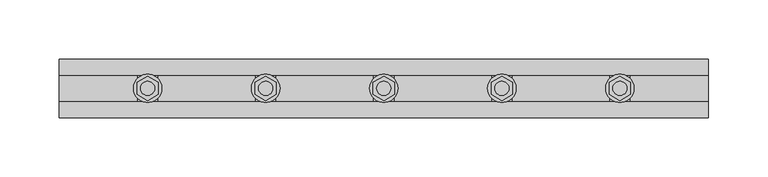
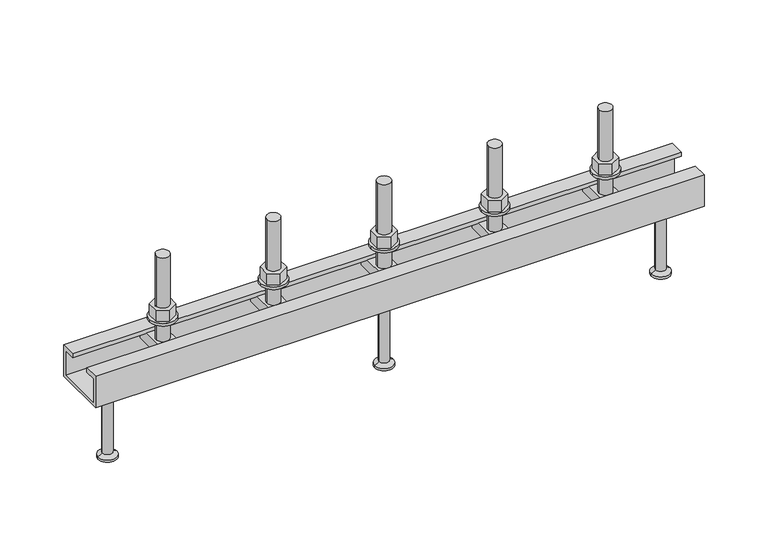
"""IFC4 building model written with IfcOpenShell, lengths in millimetres: fastener geometry, JTA-W JORDAHL® AnchorChannels : JTA-W L=550 mm."""

from ifc_helpers import new_model, si_unit, point, frame, frame_2d, origin, place, context, project, spatial, polyline, circle_curve, trimmed, segment, composite_curve, outline, extrude, source, transform, mapped, element, save
from ifc_brep_helpers import plane_surface, cylinder_surface, revolved_surface, advanced_brep


def fastener_58838e9d(model_context):
    return source(origin(), model_context, "Body", "SolidModel", [
        extrude(outline(polyline([(375.0, -10.3923048), (366.0, -5.1961524), (366.0, 5.1961524), (375.0, 10.3923048), (384.0, 5.1961524), (384.0, -5.1961524), (375.0, -10.3923048)]), holes=[composite_curve([segment(trimmed(circle_curve(frame_2d((375.0, 0.0)), 6.0), [point((369.0, 0.0))], [point((381.0, 0.0))], True, "CARTESIAN"), True, "CONTINUOUS"), segment(trimmed(circle_curve(frame_2d((375.0, 0.0)), 6.0), [point((381.0, 0.0))], [point((369.0, 0.0))], True, "CARTESIAN"), True, "CONTINUOUS")], self_intersect=False)]), frame((0.0, 0.0, 17.5), z_axis=(0.0, 0.0, 1.0), x_axis=(1.0, 0.0, 0.0)), (0.0, 0.0, 1.0), 10.8),
        extrude(outline(composite_curve([segment(trimmed(circle_curve(frame_2d((375.0, 0.0)), 12.0), [point((363.0, 0.0))], [point((387.0, 0.0))], False, "CARTESIAN"), True, "CONTINUOUS"), segment(trimmed(circle_curve(frame_2d((375.0, 0.0)), 12.0), [point((387.0, 0.0))], [point((363.0, 0.0))], False, "CARTESIAN"), True, "CONTINUOUS")], self_intersect=False), holes=[composite_curve([segment(trimmed(circle_curve(frame_2d((375.0, 0.0)), 6.5), [point((368.5, 0.0))], [point((381.5, 0.0))], True, "CARTESIAN"), True, "CONTINUOUS"), segment(trimmed(circle_curve(frame_2d((375.0, 0.0)), 6.5), [point((381.5, 0.0))], [point((368.5, 0.0))], True, "CARTESIAN"), True, "CONTINUOUS")], self_intersect=False)]), frame((0.0, 0.0, 15.0), z_axis=(0.0, 0.0, 1.0), x_axis=(1.0, 0.0, 0.0)), (0.0, 0.0, 1.0), 2.5),
        extrude(outline(polyline([(275.0, -10.3923048), (266.0, -5.1961524), (266.0, 5.1961524), (275.0, 10.3923048), (284.0, 5.1961524), (284.0, -5.1961524), (275.0, -10.3923048)]), holes=[composite_curve([segment(trimmed(circle_curve(frame_2d((275.0, 0.0)), 6.0), [point((269.0, 0.0))], [point((281.0, 0.0))], True, "CARTESIAN"), True, "CONTINUOUS"), segment(trimmed(circle_curve(frame_2d((275.0, 0.0)), 6.0), [point((281.0, 0.0))], [point((269.0, 0.0))], True, "CARTESIAN"), True, "CONTINUOUS")], self_intersect=False)]), frame((0.0, 0.0, 17.5), z_axis=(0.0, 0.0, 1.0), x_axis=(1.0, 0.0, 0.0)), (0.0, 0.0, 1.0), 10.8),
        extrude(outline(composite_curve([segment(trimmed(circle_curve(frame_2d((275.0, 0.0)), 12.0), [point((263.0, 0.0))], [point((287.0, 0.0))], False, "CARTESIAN"), True, "CONTINUOUS"), segment(trimmed(circle_curve(frame_2d((275.0, 0.0)), 12.0), [point((287.0, 0.0))], [point((263.0, 0.0))], False, "CARTESIAN"), True, "CONTINUOUS")], self_intersect=False), holes=[composite_curve([segment(trimmed(circle_curve(frame_2d((275.0, 0.0)), 6.5), [point((268.5, 0.0))], [point((281.5, 0.0))], True, "CARTESIAN"), True, "CONTINUOUS"), segment(trimmed(circle_curve(frame_2d((275.0, 0.0)), 6.5), [point((281.5, 0.0))], [point((268.5, 0.0))], True, "CARTESIAN"), True, "CONTINUOUS")], self_intersect=False)]), frame((0.0, 0.0, 15.0), z_axis=(0.0, 0.0, 1.0), x_axis=(1.0, 0.0, 0.0)), (0.0, 0.0, 1.0), 2.5),
        extrude(outline(polyline([(175.0, -10.3923048), (166.0, -5.1961524), (166.0, 5.1961524), (175.0, 10.3923048), (184.0, 5.1961524), (184.0, -5.1961524), (175.0, -10.3923048)]), holes=[composite_curve([segment(trimmed(circle_curve(frame_2d((175.0, 0.0)), 6.0), [point((169.0, 0.0))], [point((181.0, 0.0))], True, "CARTESIAN"), True, "CONTINUOUS"), segment(trimmed(circle_curve(frame_2d((175.0, 0.0)), 6.0), [point((181.0, 0.0))], [point((169.0, 0.0))], True, "CARTESIAN"), True, "CONTINUOUS")], self_intersect=False)]), frame((0.0, 0.0, 17.5), z_axis=(0.0, 0.0, 1.0), x_axis=(1.0, 0.0, 0.0)), (0.0, 0.0, 1.0), 10.8),
        extrude(outline(composite_curve([segment(trimmed(circle_curve(frame_2d((175.0, 0.0)), 12.0), [point((163.0, 0.0))], [point((187.0, 0.0))], False, "CARTESIAN"), True, "CONTINUOUS"), segment(trimmed(circle_curve(frame_2d((175.0, 0.0)), 12.0), [point((187.0, 0.0))], [point((163.0, 0.0))], False, "CARTESIAN"), True, "CONTINUOUS")], self_intersect=False), holes=[composite_curve([segment(trimmed(circle_curve(frame_2d((175.0, 0.0)), 6.5), [point((168.5, 0.0))], [point((181.5, 0.0))], True, "CARTESIAN"), True, "CONTINUOUS"), segment(trimmed(circle_curve(frame_2d((175.0, 0.0)), 6.5), [point((181.5, 0.0))], [point((168.5, 0.0))], True, "CARTESIAN"), True, "CONTINUOUS")], self_intersect=False)]), frame((0.0, 0.0, 15.0), z_axis=(0.0, 0.0, 1.0), x_axis=(1.0, 0.0, 0.0)), (0.0, 0.0, 1.0), 2.5),
        advanced_brep(
        [(383.5, -20.7, -4.0), (383.5, -20.7, -14.0), (383.5, 20.7, -14.0), (383.5, 20.7, -4.0), (366.5, -20.7, -4.0), (366.5, 20.7, -4.0), (366.5, 20.7, -14.0), (366.5, -20.7, -14.0), (381.0, 0.0, -4.0), (369.0, 0.0, -4.0), (369.0, 0.0, 76.0), (381.0, 0.0, 76.0)],
        [
            (0, 1),
            (1, 2),
            (2, 3),
            (3, 0),
            (4, 5),
            (5, 6),
            (6, 7),
            (7, 4),
            (3, 5),
            (4, 0),
            (8, 9, circle_curve(frame((375.0, 0.0, -4.0), z_axis=(0.0, 0.0, -1.0), x_axis=(1.0, 0.0, 0.0)), 6.0)),
            (9, 8, circle_curve(frame((375.0, 0.0, -4.0), z_axis=(0.0, 0.0, -1.0), x_axis=(1.0, 0.0, 0.0)), 6.0)),
            (2, 6),
            (1, 7),
            (10, 11, circle_curve(frame((375.0, 0.0, 76.0), z_axis=(0.0, 0.0, 1.0), x_axis=(1.0, 0.0, 0.0)), 6.0)),
            (11, 10, circle_curve(frame((375.0, 0.0, 76.0), z_axis=(0.0, 0.0, 1.0), x_axis=(1.0, 0.0, 0.0)), 6.0)),
            (11, 8),
            (9, 10),
        ],
        [
            plane_surface(frame((383.5, 20.7, -4.0), z_axis=(1.0, 0.0, 0.0), x_axis=(0.0, 1.0, 0.0))),
            plane_surface(frame((366.5, 20.7, -4.0), z_axis=(-1.0, 0.0, 0.0), x_axis=(0.0, -1.0, 0.0))),
            plane_surface(frame((383.5, -20.7, -4.0), z_axis=(0.0, 0.0, 1.0), x_axis=(-1.0, 0.0, 0.0))),
            plane_surface(frame((383.5, 20.7, -4.0), z_axis=(0.0, 1.0, 0.0), x_axis=(-1.0, 0.0, 0.0))),
            plane_surface(frame((383.5, 20.7, -14.0), z_axis=(0.0, 0.0, -1.0), x_axis=(-1.0, 0.0, 0.0))),
            plane_surface(frame((383.5, -20.7, -14.0), z_axis=(0.0, -1.0, 0.0), x_axis=(-1.0, 0.0, 0.0))),
            plane_surface(frame((381.0, 0.0, 76.0), z_axis=(0.0, 0.0, 1.0), x_axis=(0.0, -1.0, 0.0))),
            cylinder_surface(frame((375.0, 0.0, -4.0), z_axis=(0.0, 0.0, 1.0), x_axis=(1.0, 0.0, 0.0)), 6.0),
        ],
        [
            (0, [[1, 2, 3, 4]]),
            (1, [[5, 6, 7, 8]]),
            (2, [[9, -5, 10, -4], [11, 12]]),
            (3, [[13, -6, -9, -3]]),
            (4, [[14, -7, -13, -2]]),
            (5, [[-10, -8, -14, -1]]),
            (6, [[15, 16]]),
            (7, [[17, -12, 18, -16]]),
            (7, [[-18, -11, -17, -15]]),
        ],
    ),
        advanced_brep(
        [(283.5, -20.7, -4.0), (283.5, -20.7, -14.0), (283.5, 20.7, -14.0), (283.5, 20.7, -4.0), (266.5, -20.7, -4.0), (266.5, 20.7, -4.0), (266.5, 20.7, -14.0), (266.5, -20.7, -14.0), (281.0, 0.0, -4.0), (269.0, 0.0, -4.0), (269.0, 0.0, 76.0), (281.0, 0.0, 76.0)],
        [
            (0, 1),
            (1, 2),
            (2, 3),
            (3, 0),
            (4, 5),
            (5, 6),
            (6, 7),
            (7, 4),
            (3, 5),
            (4, 0),
            (8, 9, circle_curve(frame((275.0, 0.0, -4.0), z_axis=(0.0, 0.0, -1.0), x_axis=(1.0, 0.0, 0.0)), 6.0)),
            (9, 8, circle_curve(frame((275.0, 0.0, -4.0), z_axis=(0.0, 0.0, -1.0), x_axis=(1.0, 0.0, 0.0)), 6.0)),
            (2, 6),
            (1, 7),
            (10, 11, circle_curve(frame((275.0, 0.0, 76.0), z_axis=(0.0, 0.0, 1.0), x_axis=(1.0, 0.0, 0.0)), 6.0)),
            (11, 10, circle_curve(frame((275.0, 0.0, 76.0), z_axis=(0.0, 0.0, 1.0), x_axis=(1.0, 0.0, 0.0)), 6.0)),
            (11, 8),
            (9, 10),
        ],
        [
            plane_surface(frame((283.5, 20.7, -4.0), z_axis=(1.0, 0.0, 0.0), x_axis=(0.0, 1.0, 0.0))),
            plane_surface(frame((266.5, 20.7, -4.0), z_axis=(-1.0, 0.0, 0.0), x_axis=(0.0, -1.0, 0.0))),
            plane_surface(frame((283.5, -20.7, -4.0), z_axis=(0.0, 0.0, 1.0), x_axis=(-1.0, 0.0, 0.0))),
            plane_surface(frame((283.5, 20.7, -4.0), z_axis=(0.0, 1.0, 0.0), x_axis=(-1.0, 0.0, 0.0))),
            plane_surface(frame((283.5, 20.7, -14.0), z_axis=(0.0, 0.0, -1.0), x_axis=(-1.0, 0.0, 0.0))),
            plane_surface(frame((283.5, -20.7, -14.0), z_axis=(0.0, -1.0, 0.0), x_axis=(-1.0, 0.0, 0.0))),
            plane_surface(frame((281.0, 0.0, 76.0), z_axis=(0.0, 0.0, 1.0), x_axis=(0.0, -1.0, 0.0))),
            cylinder_surface(frame((275.0, 0.0, -4.0), z_axis=(0.0, 0.0, 1.0), x_axis=(1.0, 0.0, 0.0)), 6.0),
        ],
        [
            (0, [[1, 2, 3, 4]]),
            (1, [[5, 6, 7, 8]]),
            (2, [[9, -5, 10, -4], [11, 12]]),
            (3, [[13, -6, -9, -3]]),
            (4, [[14, -7, -13, -2]]),
            (5, [[-10, -8, -14, -1]]),
            (6, [[15, 16]]),
            (7, [[17, -12, 18, -16]]),
            (7, [[-18, -11, -17, -15]]),
        ],
    ),
        advanced_brep(
        [(183.5, -20.7, -4.0), (183.5, -20.7, -14.0), (183.5, 20.7, -14.0), (183.5, 20.7, -4.0), (166.5, -20.7, -4.0), (166.5, 20.7, -4.0), (166.5, 20.7, -14.0), (166.5, -20.7, -14.0), (181.0, 0.0, -4.0), (169.0, 0.0, -4.0), (169.0, 0.0, 76.0), (181.0, 0.0, 76.0)],
        [
            (0, 1),
            (1, 2),
            (2, 3),
            (3, 0),
            (4, 5),
            (5, 6),
            (6, 7),
            (7, 4),
            (3, 5),
            (4, 0),
            (8, 9, circle_curve(frame((175.0, 0.0, -4.0), z_axis=(0.0, 0.0, -1.0), x_axis=(1.0, 0.0, 0.0)), 6.0)),
            (9, 8, circle_curve(frame((175.0, 0.0, -4.0), z_axis=(0.0, 0.0, -1.0), x_axis=(1.0, 0.0, 0.0)), 6.0)),
            (2, 6),
            (1, 7),
            (10, 11, circle_curve(frame((175.0, 0.0, 76.0), z_axis=(0.0, 0.0, 1.0), x_axis=(1.0, 0.0, 0.0)), 6.0)),
            (11, 10, circle_curve(frame((175.0, 0.0, 76.0), z_axis=(0.0, 0.0, 1.0), x_axis=(1.0, 0.0, 0.0)), 6.0)),
            (11, 8),
            (9, 10),
        ],
        [
            plane_surface(frame((183.5, 20.7, -4.0), z_axis=(1.0, 0.0, 0.0), x_axis=(0.0, 1.0, 0.0))),
            plane_surface(frame((166.5, 20.7, -4.0), z_axis=(-1.0, 0.0, 0.0), x_axis=(0.0, -1.0, 0.0))),
            plane_surface(frame((183.5, -20.7, -4.0), z_axis=(0.0, 0.0, 1.0), x_axis=(-1.0, 0.0, 0.0))),
            plane_surface(frame((183.5, 20.7, -4.0), z_axis=(0.0, 1.0, 0.0), x_axis=(-1.0, 0.0, 0.0))),
            plane_surface(frame((183.5, 20.7, -14.0), z_axis=(0.0, 0.0, -1.0), x_axis=(-1.0, 0.0, 0.0))),
            plane_surface(frame((183.5, -20.7, -14.0), z_axis=(0.0, -1.0, 0.0), x_axis=(-1.0, 0.0, 0.0))),
            plane_surface(frame((181.0, 0.0, 76.0), z_axis=(0.0, 0.0, 1.0), x_axis=(0.0, -1.0, 0.0))),
            cylinder_surface(frame((175.0, 0.0, -4.0), z_axis=(0.0, 0.0, 1.0), x_axis=(1.0, 0.0, 0.0)), 6.0),
        ],
        [
            (0, [[1, 2, 3, 4]]),
            (1, [[5, 6, 7, 8]]),
            (2, [[9, -5, 10, -4], [11, 12]]),
            (3, [[13, -6, -9, -3]]),
            (4, [[14, -7, -13, -2]]),
            (5, [[-10, -8, -14, -1]]),
            (6, [[15, 16]]),
            (7, [[17, -12, 18, -16]]),
            (7, [[-18, -11, -17, -15]]),
        ],
    ),
        advanced_brep(
        [(275.0, 0.0, -30.0), (261.5, 0.0, -30.0), (288.5, 0.0, -30.0), (266.5, 0.0, -100.0), (275.0, 0.0, -100.0), (283.5, 0.0, -100.0), (266.5, 0.0, -98.0), (283.5, 0.0, -98.0), (270.5, 0.0, -95.6905989), (279.5, 0.0, -95.6905989), (270.5, 0.0, -32.5), (279.5, 0.0, -32.5)],
        [
            (0, 1),
            (1, 2, circle_curve(frame((275.0, 0.0, -30.0), z_axis=(0.0, 0.0, 1.0), x_axis=(1.0, 0.0, 0.0)), 13.5)),
            (2, 0),
            (2, 1, circle_curve(frame((275.0, 0.0, -30.0), z_axis=(0.0, 0.0, 1.0), x_axis=(1.0, 0.0, 0.0)), 13.5)),
            (3, 4),
            (4, 5),
            (5, 3, circle_curve(frame((275.0, 0.0, -100.0), z_axis=(0.0, 0.0, -1.0), x_axis=(1.0, 0.0, 0.0)), 8.5)),
            (3, 5, circle_curve(frame((275.0, 0.0, -100.0), z_axis=(0.0, 0.0, -1.0), x_axis=(1.0, 0.0, 0.0)), 8.5)),
            (6, 3),
            (5, 7),
            (7, 6, circle_curve(frame((275.0, 0.0, -98.0), z_axis=(0.0, 0.0, -1.0), x_axis=(1.0, 0.0, 0.0)), 8.5)),
            (6, 7, circle_curve(frame((275.0, 0.0, -98.0), z_axis=(0.0, 0.0, -1.0), x_axis=(1.0, 0.0, 0.0)), 8.5)),
            (8, 6),
            (7, 9),
            (9, 8, circle_curve(frame((275.0, 0.0, -95.6905989), z_axis=(0.0, 0.0, -1.0), x_axis=(1.0, 0.0, 0.0)), 4.5)),
            (8, 9, circle_curve(frame((275.0, 0.0, -95.6905989), z_axis=(0.0, 0.0, -1.0), x_axis=(1.0, 0.0, 0.0)), 4.5)),
            (10, 8),
            (9, 11),
            (11, 10, circle_curve(frame((275.0, 0.0, -32.5), z_axis=(0.0, 0.0, -1.0), x_axis=(1.0, 0.0, 0.0)), 4.5)),
            (10, 11, circle_curve(frame((275.0, 0.0, -32.5), z_axis=(0.0, 0.0, -1.0), x_axis=(1.0, 0.0, 0.0)), 4.5)),
            (1, 10),
            (11, 2),
        ],
        [
            plane_surface(frame((275.0, 0.0, -30.0), z_axis=(0.0, 0.0, 1.0), x_axis=(1.0, 0.0, 0.0))),
            plane_surface(frame((275.0, 0.0, -100.0), z_axis=(0.0, 0.0, -1.0), x_axis=(1.0, 0.0, 0.0))),
            cylinder_surface(frame((275.0, 0.0, 2284.3150031), z_axis=(0.0, 0.0, 1.0), x_axis=(1.0, 0.0, 0.0)), 8.5),
            revolved_surface(polyline([(283.5, 0.0, -98.0), (279.5, 0.0, -95.6905989)]), (275.0, 0.0, 2284.3150031), (0.0, 0.0, 1.0)),
            cylinder_surface(frame((275.0, 0.0, 2284.3150031), z_axis=(0.0, 0.0, 1.0), x_axis=(1.0, 0.0, 0.0)), 4.5),
            revolved_surface(polyline([(279.5, 0.0, -32.5), (288.5, 0.0, -30.0)]), (275.0, 0.0, 2284.3150031), (0.0, 0.0, 1.0)),
        ],
        [
            (0, [[1, 2, 3]]),
            (0, [[-3, 4, -1]]),
            (1, [[5, 6, 7]]),
            (1, [[-6, -5, 8]]),
            (2, [[9, -7, 10, 11]]),
            (2, [[-10, -8, -9, 12]]),
            (3, [[13, -11, 14, 15]]),
            (3, [[-14, -12, -13, 16]]),
            (4, [[17, -15, 18, 19]]),
            (4, [[-18, -16, -17, 20]]),
            (5, [[21, -19, 22, -2]]),
            (5, [[-22, -20, -21, -4]]),
        ],
    ),
        extrude(outline(polyline([(475.0, -10.3923048), (466.0, -5.1961524), (466.0, 5.1961524), (475.0, 10.3923048), (484.0, 5.1961524), (484.0, -5.1961524), (475.0, -10.3923048)]), holes=[composite_curve([segment(trimmed(circle_curve(frame_2d((475.0, 0.0)), 6.0), [point((469.0, 0.0))], [point((481.0, 0.0))], True, "CARTESIAN"), True, "CONTINUOUS"), segment(trimmed(circle_curve(frame_2d((475.0, 0.0)), 6.0), [point((481.0, 0.0))], [point((469.0, 0.0))], True, "CARTESIAN"), True, "CONTINUOUS")], self_intersect=False)]), frame((0.0, 0.0, 17.5), z_axis=(0.0, 0.0, 1.0), x_axis=(1.0, 0.0, 0.0)), (0.0, 0.0, 1.0), 10.8),
        extrude(outline(composite_curve([segment(trimmed(circle_curve(frame_2d((475.0, 0.0)), 12.0), [point((463.0, 0.0))], [point((487.0, 0.0))], False, "CARTESIAN"), True, "CONTINUOUS"), segment(trimmed(circle_curve(frame_2d((475.0, 0.0)), 12.0), [point((487.0, 0.0))], [point((463.0, 0.0))], False, "CARTESIAN"), True, "CONTINUOUS")], self_intersect=False), holes=[composite_curve([segment(trimmed(circle_curve(frame_2d((475.0, 0.0)), 6.5), [point((468.5, 0.0))], [point((481.5, 0.0))], True, "CARTESIAN"), True, "CONTINUOUS"), segment(trimmed(circle_curve(frame_2d((475.0, 0.0)), 6.5), [point((481.5, 0.0))], [point((468.5, 0.0))], True, "CARTESIAN"), True, "CONTINUOUS")], self_intersect=False)]), frame((0.0, 0.0, 15.0), z_axis=(0.0, 0.0, 1.0), x_axis=(1.0, 0.0, 0.0)), (0.0, 0.0, 1.0), 2.5),
        extrude(outline(polyline([(75.0, -10.3923048), (66.0, -5.1961524), (66.0, 5.1961524), (75.0, 10.3923048), (84.0, 5.1961524), (84.0, -5.1961524), (75.0, -10.3923048)]), holes=[composite_curve([segment(trimmed(circle_curve(frame_2d((75.0, 0.0)), 6.0), [point((69.0, 0.0))], [point((81.0, 0.0))], True, "CARTESIAN"), True, "CONTINUOUS"), segment(trimmed(circle_curve(frame_2d((75.0, 0.0)), 6.0), [point((81.0, 0.0))], [point((69.0, 0.0))], True, "CARTESIAN"), True, "CONTINUOUS")], self_intersect=False)]), frame((0.0, 0.0, 17.5), z_axis=(0.0, 0.0, 1.0), x_axis=(1.0, 0.0, 0.0)), (0.0, 0.0, 1.0), 10.8),
        extrude(outline(composite_curve([segment(trimmed(circle_curve(frame_2d((75.0, 0.0)), 12.0), [point((63.0, 0.0))], [point((87.0, 0.0))], False, "CARTESIAN"), True, "CONTINUOUS"), segment(trimmed(circle_curve(frame_2d((75.0, 0.0)), 12.0), [point((87.0, 0.0))], [point((63.0, 0.0))], False, "CARTESIAN"), True, "CONTINUOUS")], self_intersect=False), holes=[composite_curve([segment(trimmed(circle_curve(frame_2d((75.0, 0.0)), 6.5), [point((68.5, 0.0))], [point((81.5, 0.0))], True, "CARTESIAN"), True, "CONTINUOUS"), segment(trimmed(circle_curve(frame_2d((75.0, 0.0)), 6.5), [point((81.5, 0.0))], [point((68.5, 0.0))], True, "CARTESIAN"), True, "CONTINUOUS")], self_intersect=False)]), frame((0.0, 0.0, 15.0), z_axis=(0.0, 0.0, 1.0), x_axis=(1.0, 0.0, 0.0)), (0.0, 0.0, 1.0), 2.5),
        advanced_brep(
        [(483.5, -20.7, -4.0), (483.5, -20.7, -14.0), (483.5, 20.7, -14.0), (483.5, 20.7, -4.0), (466.5, -20.7, -4.0), (466.5, 20.7, -4.0), (466.5, 20.7, -14.0), (466.5, -20.7, -14.0), (481.0, 0.0, -4.0), (469.0, 0.0, -4.0), (469.0, 0.0, 76.0), (481.0, 0.0, 76.0)],
        [
            (0, 1),
            (1, 2),
            (2, 3),
            (3, 0),
            (4, 5),
            (5, 6),
            (6, 7),
            (7, 4),
            (3, 5),
            (4, 0),
            (8, 9, circle_curve(frame((475.0, 0.0, -4.0), z_axis=(0.0, 0.0, -1.0), x_axis=(1.0, 0.0, 0.0)), 6.0)),
            (9, 8, circle_curve(frame((475.0, 0.0, -4.0), z_axis=(0.0, 0.0, -1.0), x_axis=(1.0, 0.0, 0.0)), 6.0)),
            (2, 6),
            (1, 7),
            (10, 11, circle_curve(frame((475.0, 0.0, 76.0), z_axis=(0.0, 0.0, 1.0), x_axis=(1.0, 0.0, 0.0)), 6.0)),
            (11, 10, circle_curve(frame((475.0, 0.0, 76.0), z_axis=(0.0, 0.0, 1.0), x_axis=(1.0, 0.0, 0.0)), 6.0)),
            (11, 8),
            (9, 10),
        ],
        [
            plane_surface(frame((483.5, 20.7, -4.0), z_axis=(1.0, 0.0, 0.0), x_axis=(0.0, 1.0, 0.0))),
            plane_surface(frame((466.5, 20.7, -4.0), z_axis=(-1.0, 0.0, 0.0), x_axis=(0.0, -1.0, 0.0))),
            plane_surface(frame((483.5, -20.7, -4.0), z_axis=(0.0, 0.0, 1.0), x_axis=(-1.0, 0.0, 0.0))),
            plane_surface(frame((483.5, 20.7, -4.0), z_axis=(0.0, 1.0, 0.0), x_axis=(-1.0, 0.0, 0.0))),
            plane_surface(frame((483.5, 20.7, -14.0), z_axis=(0.0, 0.0, -1.0), x_axis=(-1.0, 0.0, 0.0))),
            plane_surface(frame((483.5, -20.7, -14.0), z_axis=(0.0, -1.0, 0.0), x_axis=(-1.0, 0.0, 0.0))),
            plane_surface(frame((481.0, 0.0, 76.0), z_axis=(0.0, 0.0, 1.0), x_axis=(0.0, -1.0, 0.0))),
            cylinder_surface(frame((475.0, 0.0, -4.0), z_axis=(0.0, 0.0, 1.0), x_axis=(1.0, 0.0, 0.0)), 6.0),
        ],
        [
            (0, [[1, 2, 3, 4]]),
            (1, [[5, 6, 7, 8]]),
            (2, [[9, -5, 10, -4], [11, 12]]),
            (3, [[13, -6, -9, -3]]),
            (4, [[14, -7, -13, -2]]),
            (5, [[-10, -8, -14, -1]]),
            (6, [[15, 16]]),
            (7, [[17, -12, 18, -16]]),
            (7, [[-18, -11, -17, -15]]),
        ],
    ),
        advanced_brep(
        [(83.5, -20.7, -4.0), (83.5, -20.7, -14.0), (83.5, 20.7, -14.0), (83.5, 20.7, -4.0), (66.5, -20.7, -4.0), (66.5, 20.7, -4.0), (66.5, 20.7, -14.0), (66.5, -20.7, -14.0), (81.0, 0.0, -4.0), (69.0, 0.0, -4.0), (69.0, 0.0, 76.0), (81.0, 0.0, 76.0)],
        [
            (0, 1),
            (1, 2),
            (2, 3),
            (3, 0),
            (4, 5),
            (5, 6),
            (6, 7),
            (7, 4),
            (3, 5),
            (4, 0),
            (8, 9, circle_curve(frame((75.0, 0.0, -4.0), z_axis=(0.0, 0.0, -1.0), x_axis=(1.0, 0.0, 0.0)), 6.0)),
            (9, 8, circle_curve(frame((75.0, 0.0, -4.0), z_axis=(0.0, 0.0, -1.0), x_axis=(1.0, 0.0, 0.0)), 6.0)),
            (2, 6),
            (1, 7),
            (10, 11, circle_curve(frame((75.0, 0.0, 76.0), z_axis=(0.0, 0.0, 1.0), x_axis=(1.0, 0.0, 0.0)), 6.0)),
            (11, 10, circle_curve(frame((75.0, 0.0, 76.0), z_axis=(0.0, 0.0, 1.0), x_axis=(1.0, 0.0, 0.0)), 6.0)),
            (11, 8),
            (9, 10),
        ],
        [
            plane_surface(frame((83.5, 20.7, -4.0), z_axis=(1.0, 0.0, 0.0), x_axis=(0.0, 1.0, 0.0))),
            plane_surface(frame((66.5, 20.7, -4.0), z_axis=(-1.0, 0.0, 0.0), x_axis=(0.0, -1.0, 0.0))),
            plane_surface(frame((83.5, -20.7, -4.0), z_axis=(0.0, 0.0, 1.0), x_axis=(-1.0, 0.0, 0.0))),
            plane_surface(frame((83.5, 20.7, -4.0), z_axis=(0.0, 1.0, 0.0), x_axis=(-1.0, 0.0, 0.0))),
            plane_surface(frame((83.5, 20.7, -14.0), z_axis=(0.0, 0.0, -1.0), x_axis=(-1.0, 0.0, 0.0))),
            plane_surface(frame((83.5, -20.7, -14.0), z_axis=(0.0, -1.0, 0.0), x_axis=(-1.0, 0.0, 0.0))),
            plane_surface(frame((81.0, 0.0, 76.0), z_axis=(0.0, 0.0, 1.0), x_axis=(0.0, -1.0, 0.0))),
            cylinder_surface(frame((75.0, 0.0, -4.0), z_axis=(0.0, 0.0, 1.0), x_axis=(1.0, 0.0, 0.0)), 6.0),
        ],
        [
            (0, [[1, 2, 3, 4]]),
            (1, [[5, 6, 7, 8]]),
            (2, [[9, -5, 10, -4], [11, 12]]),
            (3, [[13, -6, -9, -3]]),
            (4, [[14, -7, -13, -2]]),
            (5, [[-10, -8, -14, -1]]),
            (6, [[15, 16]]),
            (7, [[17, -12, 18, -16]]),
            (7, [[-18, -11, -17, -15]]),
        ],
    ),
        advanced_brep(
        [(525.0, 0.0, -30.0), (511.5, 0.0, -30.0), (538.5, 0.0, -30.0), (516.5, 0.0, -100.0), (525.0, 0.0, -100.0), (533.5, 0.0, -100.0), (516.5, 0.0, -98.0), (533.5, 0.0, -98.0), (520.5, 0.0, -95.6905989), (529.5, 0.0, -95.6905989), (520.5, 0.0, -32.5), (529.5, 0.0, -32.5)],
        [
            (0, 1),
            (1, 2, circle_curve(frame((525.0, 0.0, -30.0), z_axis=(0.0, 0.0, 1.0), x_axis=(1.0, 0.0, 0.0)), 13.5)),
            (2, 0),
            (2, 1, circle_curve(frame((525.0, 0.0, -30.0), z_axis=(0.0, 0.0, 1.0), x_axis=(1.0, 0.0, 0.0)), 13.5)),
            (3, 4),
            (4, 5),
            (5, 3, circle_curve(frame((525.0, 0.0, -100.0), z_axis=(0.0, 0.0, -1.0), x_axis=(1.0, 0.0, 0.0)), 8.5)),
            (3, 5, circle_curve(frame((525.0, 0.0, -100.0), z_axis=(0.0, 0.0, -1.0), x_axis=(1.0, 0.0, 0.0)), 8.5)),
            (6, 3),
            (5, 7),
            (7, 6, circle_curve(frame((525.0, 0.0, -98.0), z_axis=(0.0, 0.0, -1.0), x_axis=(1.0, 0.0, 0.0)), 8.5)),
            (6, 7, circle_curve(frame((525.0, 0.0, -98.0), z_axis=(0.0, 0.0, -1.0), x_axis=(1.0, 0.0, 0.0)), 8.5)),
            (8, 6),
            (7, 9),
            (9, 8, circle_curve(frame((525.0, 0.0, -95.6905989), z_axis=(0.0, 0.0, -1.0), x_axis=(1.0, 0.0, 0.0)), 4.5)),
            (8, 9, circle_curve(frame((525.0, 0.0, -95.6905989), z_axis=(0.0, 0.0, -1.0), x_axis=(1.0, 0.0, 0.0)), 4.5)),
            (10, 8),
            (9, 11),
            (11, 10, circle_curve(frame((525.0, 0.0, -32.5), z_axis=(0.0, 0.0, -1.0), x_axis=(1.0, 0.0, 0.0)), 4.5)),
            (10, 11, circle_curve(frame((525.0, 0.0, -32.5), z_axis=(0.0, 0.0, -1.0), x_axis=(1.0, 0.0, 0.0)), 4.5)),
            (1, 10),
            (11, 2),
        ],
        [
            plane_surface(frame((525.0, 0.0, -30.0), z_axis=(0.0, 0.0, 1.0), x_axis=(1.0, 0.0, 0.0))),
            plane_surface(frame((525.0, 0.0, -100.0), z_axis=(0.0, 0.0, -1.0), x_axis=(1.0, 0.0, 0.0))),
            cylinder_surface(frame((525.0, 0.0, 2284.3150031), z_axis=(0.0, 0.0, 1.0), x_axis=(1.0, 0.0, 0.0)), 8.5),
            revolved_surface(polyline([(533.5, 0.0, -98.0), (529.5, 0.0, -95.6905989)]), (525.0, 0.0, 2284.3150031), (0.0, 0.0, 1.0)),
            cylinder_surface(frame((525.0, 0.0, 2284.3150031), z_axis=(0.0, 0.0, 1.0), x_axis=(1.0, 0.0, 0.0)), 4.5),
            revolved_surface(polyline([(529.5, 0.0, -32.5), (538.5, 0.0, -30.0)]), (525.0, 0.0, 2284.3150031), (0.0, 0.0, 1.0)),
        ],
        [
            (0, [[1, 2, 3]]),
            (0, [[-3, 4, -1]]),
            (1, [[5, 6, 7]]),
            (1, [[-6, -5, 8]]),
            (2, [[9, -7, 10, 11]]),
            (2, [[-10, -8, -9, 12]]),
            (3, [[13, -11, 14, 15]]),
            (3, [[-14, -12, -13, 16]]),
            (4, [[17, -15, 18, 19]]),
            (4, [[-18, -16, -17, 20]]),
            (5, [[21, -19, 22, -2]]),
            (5, [[-22, -20, -21, -4]]),
        ],
    ),
        advanced_brep(
        [(25.0, 0.0, -30.0), (11.5, 0.0, -30.0), (38.5, 0.0, -30.0), (16.5, 0.0, -100.0), (25.0, 0.0, -100.0), (33.5, 0.0, -100.0), (16.5, 0.0, -98.0), (33.5, 0.0, -98.0), (20.5, 0.0, -95.6905989), (29.5, 0.0, -95.6905989), (20.5, 0.0, -32.5), (29.5, 0.0, -32.5)],
        [
            (0, 1),
            (1, 2, circle_curve(frame((25.0, 0.0, -30.0), z_axis=(0.0, 0.0, 1.0), x_axis=(1.0, 0.0, 0.0)), 13.5)),
            (2, 0),
            (2, 1, circle_curve(frame((25.0, 0.0, -30.0), z_axis=(0.0, 0.0, 1.0), x_axis=(1.0, 0.0, 0.0)), 13.5)),
            (3, 4),
            (4, 5),
            (5, 3, circle_curve(frame((25.0, 0.0, -100.0), z_axis=(0.0, 0.0, -1.0), x_axis=(1.0, 0.0, 0.0)), 8.5)),
            (3, 5, circle_curve(frame((25.0, 0.0, -100.0), z_axis=(0.0, 0.0, -1.0), x_axis=(1.0, 0.0, 0.0)), 8.5)),
            (6, 3),
            (5, 7),
            (7, 6, circle_curve(frame((25.0, 0.0, -98.0), z_axis=(0.0, 0.0, -1.0), x_axis=(1.0, 0.0, 0.0)), 8.5)),
            (6, 7, circle_curve(frame((25.0, 0.0, -98.0), z_axis=(0.0, 0.0, -1.0), x_axis=(1.0, 0.0, 0.0)), 8.5)),
            (8, 6),
            (7, 9),
            (9, 8, circle_curve(frame((25.0, 0.0, -95.6905989), z_axis=(0.0, 0.0, -1.0), x_axis=(1.0, 0.0, 0.0)), 4.5)),
            (8, 9, circle_curve(frame((25.0, 0.0, -95.6905989), z_axis=(0.0, 0.0, -1.0), x_axis=(1.0, 0.0, 0.0)), 4.5)),
            (10, 8),
            (9, 11),
            (11, 10, circle_curve(frame((25.0, 0.0, -32.5), z_axis=(0.0, 0.0, -1.0), x_axis=(1.0, 0.0, 0.0)), 4.5)),
            (10, 11, circle_curve(frame((25.0, 0.0, -32.5), z_axis=(0.0, 0.0, -1.0), x_axis=(1.0, 0.0, 0.0)), 4.5)),
            (1, 10),
            (11, 2),
        ],
        [
            plane_surface(frame((25.0, 0.0, -30.0), z_axis=(0.0, 0.0, 1.0), x_axis=(1.0, 0.0, 0.0))),
            plane_surface(frame((25.0, 0.0, -100.0), z_axis=(0.0, 0.0, -1.0), x_axis=(1.0, 0.0, 0.0))),
            cylinder_surface(frame((25.0, 0.0, 2284.3150031), z_axis=(0.0, 0.0, 1.0), x_axis=(1.0, 0.0, 0.0)), 8.5),
            revolved_surface(polyline([(33.5, 0.0, -98.0), (29.5, 0.0, -95.6905989)]), (25.0, 0.0, 2284.3150031), (0.0, 0.0, 1.0)),
            cylinder_surface(frame((25.0, 0.0, 2284.3150031), z_axis=(0.0, 0.0, 1.0), x_axis=(1.0, 0.0, 0.0)), 4.5),
            revolved_surface(polyline([(29.5, 0.0, -32.5), (38.5, 0.0, -30.0)]), (25.0, 0.0, 2284.3150031), (0.0, 0.0, 1.0)),
        ],
        [
            (0, [[1, 2, 3]]),
            (0, [[-3, 4, -1]]),
            (1, [[5, 6, 7]]),
            (1, [[-6, -5, 8]]),
            (2, [[9, -7, 10, 11]]),
            (2, [[-10, -8, -9, 12]]),
            (3, [[13, -11, 14, 15]]),
            (3, [[-14, -12, -13, 16]]),
            (4, [[17, -15, 18, 19]]),
            (4, [[-18, -16, -17, 20]]),
            (5, [[21, -19, 22, -2]]),
            (5, [[-22, -20, -21, -4]]),
        ],
    ),
        extrude(outline(polyline([(-24.75, 0.0), (-11.25, 0.0), (-11.25, -4.0), (-21.95, -4.0), (-21.95, -27.2), (21.95, -27.2), (21.95, -4.0), (11.25, -4.0), (11.25, 0.0), (24.75, 0.0), (24.75, -30.0), (-24.75, -30.0), (-24.75, 0.0)])), frame((0.0, 0.0, 0.0), z_axis=(1.0, 0.0, 0.0), x_axis=(0.0, 1.0, 0.0)), (0.0, 0.0, 1.0), 550.0),
    ])


if __name__ == "__main__":
    model = new_model("IFC4")
    model_context = context("Model", 3, world=origin())
    ifc_project = project(units=[si_unit("LENGTHUNIT", "METRE", prefix="MILLI")], contexts=[model_context])
    site = spatial("IfcSite", under=ifc_project)
    building = spatial("IfcBuilding", under=site)
    placement = place(None, origin())
    fastener_shape = fastener_58838e9d(model_context)
    element("IfcFastener", 1, ObjectType="JTA-W JORDAHL® AnchorChannels : JTA-W L=550 mm", at=placement, inside=building, context=model_context, shape_type="MappedRepresentation", body=[
        mapped(fastener_shape, transform((0.0, 0.0, 0.0), x_axis=(1.0, 0.0, 0.0), y_axis=(0.0, 1.0, 0.0), z_axis=(0.0, 0.0, 1.0))),
    ])
    save(model, "model.ifc")
